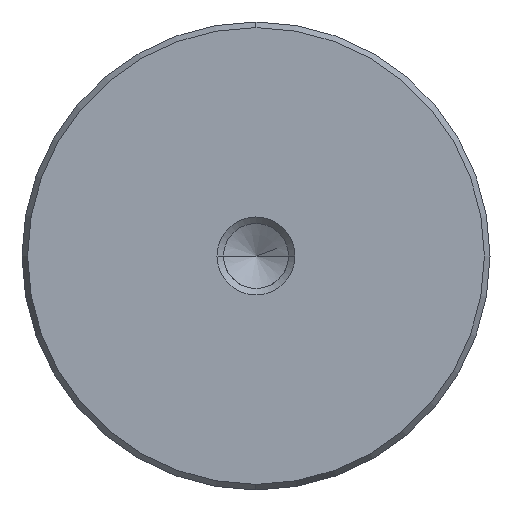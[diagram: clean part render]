
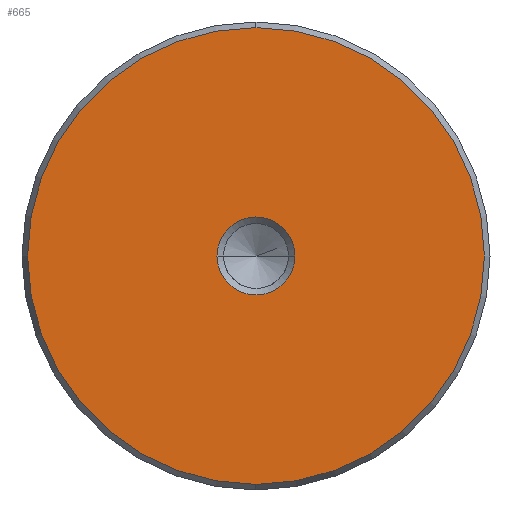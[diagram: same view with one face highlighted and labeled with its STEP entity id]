
A CAD part, left-side view. The second image highlights one B-rep face of the part: STEP entity #665.
In plain terms, the highlighted planar face has unit normal (-1, 0, 0).
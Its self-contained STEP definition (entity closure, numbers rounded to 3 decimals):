
#579=CARTESIAN_POINT('Vertex',(0.,0.,-23.423)) ;
#582=CARTESIAN_POINT('Axis2P3D Location',(0.,0.,0.)) ;
#586=CARTESIAN_POINT('Vertex',(0.,23.423,0.)) ;
#589=CARTESIAN_POINT('Axis2P3D Location',(0.,0.,0.)) ;
#593=CARTESIAN_POINT('Vertex',(0.,0.,23.423)) ;
#615=CARTESIAN_POINT('Axis2P3D Location',(0.,0.,0.)) ;
#619=CARTESIAN_POINT('Vertex',(0.,-23.423,0.)) ;
#622=CARTESIAN_POINT('Axis2P3D Location',(0.,0.,0.)) ;
#636=CARTESIAN_POINT('Axis2P3D Location',(0.,0.,0.)) ;
#647=CARTESIAN_POINT('Axis2P3D Location',(0.,0.,0.)) ;
#651=CARTESIAN_POINT('Vertex',(0.,4.,0.)) ;
#653=CARTESIAN_POINT('Vertex',(0.,-4.,0.)) ;
#656=CARTESIAN_POINT('Axis2P3D Location',(0.,0.,0.)) ;
#583=DIRECTION('Axis2P3D Direction',(1.,0.,-0.)) ;
#590=DIRECTION('Axis2P3D Direction',(1.,0.,-0.)) ;
#616=DIRECTION('Axis2P3D Direction',(1.,0.,-0.)) ;
#623=DIRECTION('Axis2P3D Direction',(1.,0.,-0.)) ;
#637=DIRECTION('Axis2P3D Direction',(1.,0.,-0.)) ;
#638=DIRECTION('Axis2P3D XDirection',(-0.,0.,-1.)) ;
#648=DIRECTION('Axis2P3D Direction',(1.,0.,-0.)) ;
#657=DIRECTION('Axis2P3D Direction',(1.,0.,-0.)) ;
#584=AXIS2_PLACEMENT_3D('Circle Axis2P3D',#582,#583,$) ;
#591=AXIS2_PLACEMENT_3D('Circle Axis2P3D',#589,#590,$) ;
#617=AXIS2_PLACEMENT_3D('Circle Axis2P3D',#615,#616,$) ;
#624=AXIS2_PLACEMENT_3D('Circle Axis2P3D',#622,#623,$) ;
#639=AXIS2_PLACEMENT_3D('Plane Axis2P3D',#636,#637,#638) ;
#649=AXIS2_PLACEMENT_3D('Circle Axis2P3D',#647,#648,$) ;
#658=AXIS2_PLACEMENT_3D('Circle Axis2P3D',#656,#657,$) ;
#642=ORIENTED_EDGE('',*,*,#588,.F.) ;
#643=ORIENTED_EDGE('',*,*,#626,.F.) ;
#644=ORIENTED_EDGE('',*,*,#621,.F.) ;
#645=ORIENTED_EDGE('',*,*,#595,.F.) ;
#662=ORIENTED_EDGE('',*,*,#655,.T.) ;
#663=ORIENTED_EDGE('',*,*,#660,.T.) ;
#664=FACE_BOUND('',#661,.T.) ;
#665=ADVANCED_FACE('720-48x500',(#646,#664),#640,.F.) ;
#585=CIRCLE('generated circle',#584,23.423) ;
#592=CIRCLE('generated circle',#591,23.423) ;
#618=CIRCLE('generated circle',#617,23.423) ;
#625=CIRCLE('generated circle',#624,23.423) ;
#650=CIRCLE('generated circle',#649,4.) ;
#659=CIRCLE('generated circle',#658,4.) ;
#588=EDGE_CURVE('',#580,#587,#585,.T.) ;
#595=EDGE_CURVE('',#587,#594,#592,.T.) ;
#621=EDGE_CURVE('',#594,#620,#618,.T.) ;
#626=EDGE_CURVE('',#620,#580,#625,.T.) ;
#655=EDGE_CURVE('',#652,#654,#650,.T.) ;
#660=EDGE_CURVE('',#654,#652,#659,.T.) ;
#641=EDGE_LOOP('',(#642,#643,#644,#645)) ;
#661=EDGE_LOOP('',(#662,#663)) ;
#646=FACE_OUTER_BOUND('',#641,.T.) ;
#640=PLANE('Plane',#639) ;
#580=VERTEX_POINT('',#579) ;
#587=VERTEX_POINT('',#586) ;
#594=VERTEX_POINT('',#593) ;
#620=VERTEX_POINT('',#619) ;
#652=VERTEX_POINT('',#651) ;
#654=VERTEX_POINT('',#653) ;
